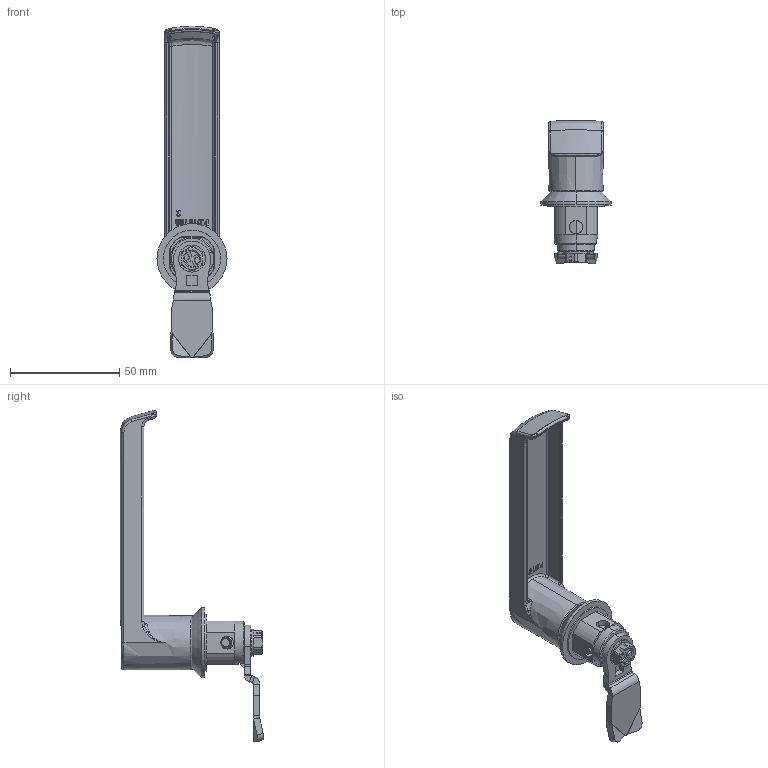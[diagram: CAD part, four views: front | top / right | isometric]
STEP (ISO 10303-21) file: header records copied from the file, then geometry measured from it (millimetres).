
FILE_DESCRIPTION (( 'STEP AP203' ), '1' );
FILE_NAME ('2.L18.101(2,3,4).STEP', '2022-02-14T06:18:31', ( '' ), ( '' ), 'SwSTEP 2.0', 'SolidWorks 2021', '' );
FILE_SCHEMA (( 'CONFIG_CONTROL_DESIGN' ));
Length unit declared in the file: millimetre
Products named in the file (12): 2.L18.101(2,3,4); DIN 3771_13x3,5; P.002400_03-00; DIN 7343_2x10; S6PZ_M6x8; 2.B.012_1333; 1C.J-1XX.H.L_#3, 1.75.22.45; P.015108_00-00; DIN 3771_9.1x1.6; 2.T18.001.01_A; P.002398_00-00; 2.IP65.003_A
Assembly tree (11 placements, depth 2):
  2.L18.101(2,3,4)
    P.015108_00-00
    P.002400_03-00
    2.B.012_1333
    DIN 3771_9.1x1.6
    2.T18.001.01_A
    1C.J-1XX.H.L_#3, 1.75.22.45
    S6PZ_M6x8
    DIN 7343_2x10
    DIN 3771_13x3,5
    P.002398_00-00
    2.IP65.003_A
Bounding box: 32 x 65.52 x 151.46 mm (x, y, z)
Volume: 36010.8 mm3; surface area: 27970 mm2
Topology: 11 solids, 11 shells, 833 faces, 2155 edges, 1346 vertices
Faces by surface type: plane 361, bspline 178, cylinder 146, cone 92, torus 53, sphere 3
Entity records: 37228 total; most frequent: CARTESIAN_POINT 17228, ORIENTED_EDGE 4282, DIRECTION 3421, EDGE_CURVE 2141, VERTEX_POINT 1345, AXIS2_PLACEMENT_3D 1263, LINE 895, VECTOR 895
